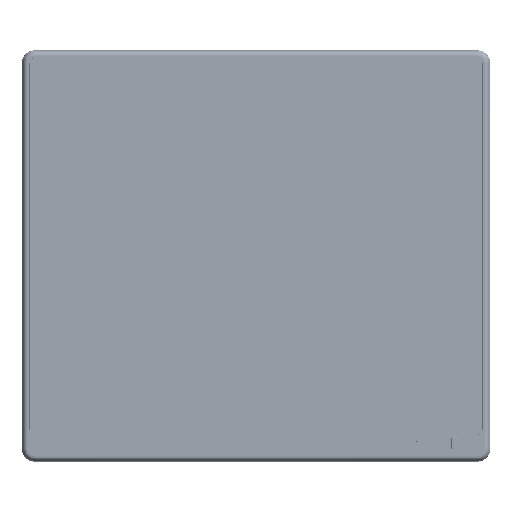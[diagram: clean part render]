
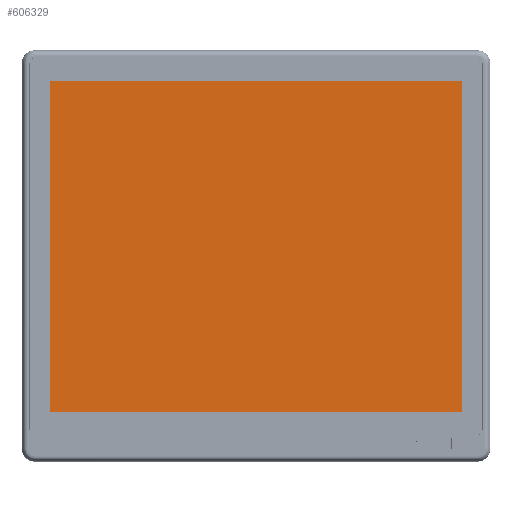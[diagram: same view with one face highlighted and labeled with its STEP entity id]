
A CAD part, top view. The second image highlights one B-rep face of the part: STEP entity #606329.
In plain terms, the highlighted planar face has unit normal (0, 0, 1).
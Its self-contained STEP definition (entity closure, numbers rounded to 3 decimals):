
#19483 = FACE_OUTER_BOUND ( 'NONE', #165469, .T. ) ;
#27756 = B_SPLINE_CURVE_WITH_KNOTS ( 'NONE', 3,
 ( #341399, #278014, #531968, #153955 ),
 .UNSPECIFIED., .F., .F.,
 ( 4, 4 ),
 ( 0., 1. ),
 .UNSPECIFIED. ) ;
#45186 = CARTESIAN_POINT ( 'NONE',  ( 164.795, 144.701, 400.768 ) ) ;
#45919 = B_SPLINE_CURVE_WITH_KNOTS ( 'NONE', 3,
 ( #245325, #623364, #372144, #814016, #435673, #57896, #499106, #121266, #562629, #184655 ),
 .UNSPECIFIED., .F., .F.,
 ( 4, 2, 2, 2, 4 ),
 ( 0., 0.25, 0.5, 0.75, 1. ),
 .UNSPECIFIED. ) ;
#53366 = CARTESIAN_POINT ( 'NONE',  ( 163.249, 147.904, 400.768 ) ) ;
#54601 = ORIENTED_EDGE ( 'NONE', *, *, #271561, .T. ) ;
#57896 = CARTESIAN_POINT ( 'NONE',  ( -207.658, -161.502, 400.768 ) ) ;
#60220 = CARTESIAN_POINT ( 'NONE',  ( 163.254, -161.498, 400.768 ) ) ;
#69729 = ORIENTED_EDGE ( 'NONE', *, *, #272265, .T. ) ;
#72536 = B_SPLINE_CURVE_WITH_KNOTS ( 'NONE', 3,
 ( #45186, #428419, #367628, #809479, #431139, #53366, #494645, #116777, #558144, #180128 ),
 .UNSPECIFIED., .F., .F.,
 ( 4, 2, 2, 2, 4 ),
 ( 0., 0.25, 0.5, 0.75, 1. ),
 .UNSPECIFIED. ) ;
#84907 = CARTESIAN_POINT ( 'NONE',  ( -209.205, 144.701, 400.768 ) ) ;
#86177 = CARTESIAN_POINT ( 'NONE',  ( -209.205, 144.701, 400.768 ) ) ;
#86563 = VERTEX_POINT ( 'NONE', #528499 ) ;
#96771 = CARTESIAN_POINT ( 'NONE',  ( -206.246, 148.599, 400.768 ) ) ;
#116777 = CARTESIAN_POINT ( 'NONE',  ( 161.836, 148.599, 400.768 ) ) ;
#121266 = CARTESIAN_POINT ( 'NONE',  ( -206.246, -162.198, 400.768 ) ) ;
#122648 = VERTEX_POINT ( 'NONE', #444133 ) ;
#123599 = CARTESIAN_POINT ( 'NONE',  ( 161.842, -162.195, 400.768 ) ) ;
#140056 = VERTEX_POINT ( 'NONE', #84907 ) ;
#149461 = CARTESIAN_POINT ( 'NONE',  ( -209.205, -57.299, 400.768 ) ) ;
#152055 = CARTESIAN_POINT ( 'NONE',  ( 164.795, -57.299, 400.768 ) ) ;
#153955 = CARTESIAN_POINT ( 'NONE',  ( -205.205, 148.701, 400.768 ) ) ;
#154899 = B_SPLINE_CURVE_WITH_KNOTS ( 'NONE', 3,
 ( #247630, #244891, #374472, #816320, #438018, #60220, #501441, #123599, #564963, #186968 ),
 .UNSPECIFIED., .F., .F.,
 ( 4, 2, 2, 2, 4 ),
 ( 0., 0.25, 0.5, 0.75, 1. ),
 .UNSPECIFIED. ) ;
#160106 = CARTESIAN_POINT ( 'NONE',  ( -207.658, 147.904, 400.768 ) ) ;
#165469 = EDGE_LOOP ( 'NONE', ( #54601, #565740, #289113, #652900, #202104, #332707, #69729, #193638 ) ) ;
#168917 = CARTESIAN_POINT ( 'NONE',  ( -83.205, -162.299, 400.768 ) ) ;
#180128 = CARTESIAN_POINT ( 'NONE',  ( 160.795, 148.701, 400.768 ) ) ;
#184655 = CARTESIAN_POINT ( 'NONE',  ( -205.205, -162.299, 400.768 ) ) ;
#186968 = CARTESIAN_POINT ( 'NONE',  ( 160.795, -162.299, 400.768 ) ) ;
#187197 = CARTESIAN_POINT ( 'NONE',  ( -205.205, -162.299, 400.768 ) ) ;
#193638 = ORIENTED_EDGE ( 'NONE', *, *, #528739, .T. ) ;
#202104 = ORIENTED_EDGE ( 'NONE', *, *, #735194, .T. ) ;
#215482 = CARTESIAN_POINT ( 'NONE',  ( 164.795, -158.299, 400.768 ) ) ;
#218530 = DIRECTION ( 'NONE',  ( 0., 0., 1. ) ) ;
#223480 = CARTESIAN_POINT ( 'NONE',  ( -208.697, 146.722, 400.768 ) ) ;
#240485 = CARTESIAN_POINT ( 'NONE',  ( 38.795, -162.299, 400.768 ) ) ;
#244891 = CARTESIAN_POINT ( 'NONE',  ( 164.795, -158.823, 400.768 ) ) ;
#245325 = CARTESIAN_POINT ( 'NONE',  ( -209.205, -158.299, 400.768 ) ) ;
#247630 = CARTESIAN_POINT ( 'NONE',  ( 164.795, -158.299, 400.768 ) ) ;
#270102 = VERTEX_POINT ( 'NONE', #758395 ) ;
#271561 = EDGE_CURVE ( 'NONE', #140056, #86563, #464517, .T. ) ;
#272265 = EDGE_CURVE ( 'NONE', #810733, #813048, #27756, .T. ) ;
#278014 = CARTESIAN_POINT ( 'NONE',  ( 38.795, 148.701, 400.768 ) ) ;
#286822 = CARTESIAN_POINT ( 'NONE',  ( -209.205, 145.232, 400.768 ) ) ;
#289113 = ORIENTED_EDGE ( 'NONE', *, *, #800020, .T. ) ;
#332707 = ORIENTED_EDGE ( 'NONE', *, *, #512152, .T. ) ;
#339523 = CARTESIAN_POINT ( 'NONE',  ( -205.205, 148.701, 400.768 ) ) ;
#341399 = CARTESIAN_POINT ( 'NONE',  ( 160.795, 148.701, 400.768 ) ) ;
#342225 = CARTESIAN_POINT ( 'NONE',  ( 164.795, 144.701, 400.768 ) ) ;
#367628 = CARTESIAN_POINT ( 'NONE',  ( 164.694, 145.742, 400.768 ) ) ;
#372144 = CARTESIAN_POINT ( 'NONE',  ( -209.103, -159.34, 400.768 ) ) ;
#374472 = CARTESIAN_POINT ( 'NONE',  ( 164.691, -159.346, 400.768 ) ) ;
#374651 = CARTESIAN_POINT ( 'NONE',  ( 164.795, 144.701, 400.768 ) ) ;
#400513 = CARTESIAN_POINT ( 'NONE',  ( -209.205, 43.701, 400.768 ) ) ;
#411078 = CARTESIAN_POINT ( 'NONE',  ( -205.205, 148.701, 400.768 ) ) ;
#428419 = CARTESIAN_POINT ( 'NONE',  ( 164.795, 145.231, 400.768 ) ) ;
#431139 = CARTESIAN_POINT ( 'NONE',  ( 163.999, 147.155, 400.768 ) ) ;
#435673 = CARTESIAN_POINT ( 'NONE',  ( -208.408, -160.753, 400.768 ) ) ;
#438018 = CARTESIAN_POINT ( 'NONE',  ( 163.994, -160.757, 400.768 ) ) ;
#444133 = CARTESIAN_POINT ( 'NONE',  ( 160.795, -162.299, 400.768 ) ) ;
#464517 = B_SPLINE_CURVE_WITH_KNOTS ( 'NONE', 3,
 ( #86177, #400513, #149461, #590915 ),
 .UNSPECIFIED., .F., .F.,
 ( 4, 4 ),
 ( 0., 1. ),
 .UNSPECIFIED. ) ;
#494645 = CARTESIAN_POINT ( 'NONE',  ( 162.816, 148.194, 400.768 ) ) ;
#499106 = CARTESIAN_POINT ( 'NONE',  ( -207.225, -161.792, 400.768 ) ) ;
#501441 = CARTESIAN_POINT ( 'NONE',  ( 162.81, -161.794, 400.768 ) ) ;
#512152 = EDGE_CURVE ( 'NONE', #644921, #810733, #72536, .T. ) ;
#528499 = CARTESIAN_POINT ( 'NONE',  ( -209.205, -158.299, 400.768 ) ) ;
#528739 = EDGE_CURVE ( 'NONE', #813048, #140056, #549293, .T. ) ;
#531968 = CARTESIAN_POINT ( 'NONE',  ( -83.205, 148.701, 400.768 ) ) ;
#538140 = CARTESIAN_POINT ( 'NONE',  ( -207.225, 148.194, 400.768 ) ) ;
#549293 = B_SPLINE_CURVE_WITH_KNOTS ( 'NONE', 3,
 ( #411078, #789399, #96771, #538140, #160106, #601524, #223480, #665162, #286822, #728595 ),
 .UNSPECIFIED., .F., .F.,
 ( 4, 2, 2, 2, 4 ),
 ( 0., 0.25, 0.5, 0.75, 1. ),
 .UNSPECIFIED. ) ;
#558144 = CARTESIAN_POINT ( 'NONE',  ( 161.326, 148.701, 400.768 ) ) ;
#562629 = CARTESIAN_POINT ( 'NONE',  ( -205.735, -162.299, 400.768 ) ) ;
#564963 = CARTESIAN_POINT ( 'NONE',  ( 161.319, -162.299, 400.768 ) ) ;
#565740 = ORIENTED_EDGE ( 'NONE', *, *, #735544, .T. ) ;
#590915 = CARTESIAN_POINT ( 'NONE',  ( -209.205, -158.299, 400.768 ) ) ;
#596506 = CARTESIAN_POINT ( 'NONE',  ( -22.205, -6.799, 400.768 ) ) ;
#601524 = CARTESIAN_POINT ( 'NONE',  ( -208.408, 147.155, 400.768 ) ) ;
#603580 = EDGE_CURVE ( 'NONE', #270102, #122648, #154899, .T. ) ;
#606329 = ADVANCED_FACE ( 'NONE', ( #19483 ), #657477, .T. ) ;
#612517 = VERTEX_POINT ( 'NONE', #187197 ) ;
#623364 = CARTESIAN_POINT ( 'NONE',  ( -209.205, -158.829, 400.768 ) ) ;
#644921 = VERTEX_POINT ( 'NONE', #374651 ) ;
#652900 = ORIENTED_EDGE ( 'NONE', *, *, #603580, .F. ) ;
#657477 = PLANE ( 'NONE',  #727992 ) ;
#660180 = DIRECTION ( 'NONE',  ( 1., 0., 0. ) ) ;
#665162 = CARTESIAN_POINT ( 'NONE',  ( -209.103, 145.742, 400.768 ) ) ;
#682145 = CARTESIAN_POINT ( 'NONE',  ( 160.795, -162.299, 400.768 ) ) ;
#720623 = CARTESIAN_POINT ( 'NONE',  ( 164.795, 43.701, 400.768 ) ) ;
#727992 = AXIS2_PLACEMENT_3D ( 'NONE', #596506, #218530, #660180 ) ;
#728595 = CARTESIAN_POINT ( 'NONE',  ( -209.205, 144.701, 400.768 ) ) ;
#735194 = EDGE_CURVE ( 'NONE', #270102, #644921, #812924, .T. ) ;
#735544 = EDGE_CURVE ( 'NONE', #86563, #612517, #45919, .T. ) ;
#738333 = B_SPLINE_CURVE_WITH_KNOTS ( 'NONE', 3,
 ( #742852, #168917, #240485, #682145 ),
 .UNSPECIFIED., .F., .F.,
 ( 4, 4 ),
 ( 0., 1. ),
 .UNSPECIFIED. ) ;
#742852 = CARTESIAN_POINT ( 'NONE',  ( -205.205, -162.299, 400.768 ) ) ;
#758395 = CARTESIAN_POINT ( 'NONE',  ( 164.795, -158.299, 400.768 ) ) ;
#781139 = CARTESIAN_POINT ( 'NONE',  ( 160.795, 148.701, 400.768 ) ) ;
#789399 = CARTESIAN_POINT ( 'NONE',  ( -205.735, 148.701, 400.768 ) ) ;
#800020 = EDGE_CURVE ( 'NONE', #612517, #122648, #738333, .T. ) ;
#809479 = CARTESIAN_POINT ( 'NONE',  ( 164.288, 146.721, 400.768 ) ) ;
#810733 = VERTEX_POINT ( 'NONE', #781139 ) ;
#812924 = B_SPLINE_CURVE_WITH_KNOTS ( 'NONE', 3,
 ( #215482, #152055, #720623, #342225 ),
 .UNSPECIFIED., .F., .F.,
 ( 4, 4 ),
 ( 0., 1. ),
 .UNSPECIFIED. ) ;
#813048 = VERTEX_POINT ( 'NONE', #339523 ) ;
#814016 = CARTESIAN_POINT ( 'NONE',  ( -208.697, -160.319, 400.768 ) ) ;
#816320 = CARTESIAN_POINT ( 'NONE',  ( 164.291, -160.313, 400.768 ) ) ;
